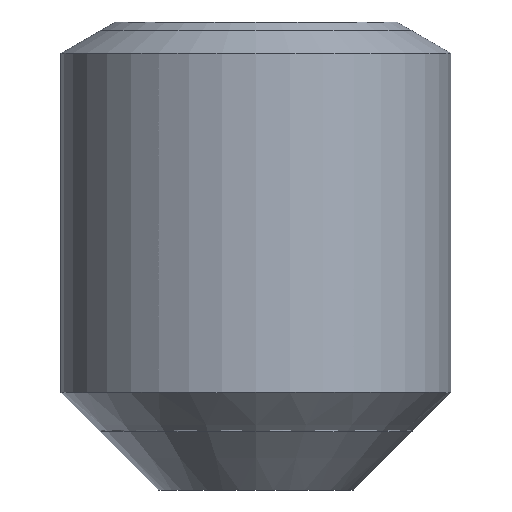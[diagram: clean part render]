
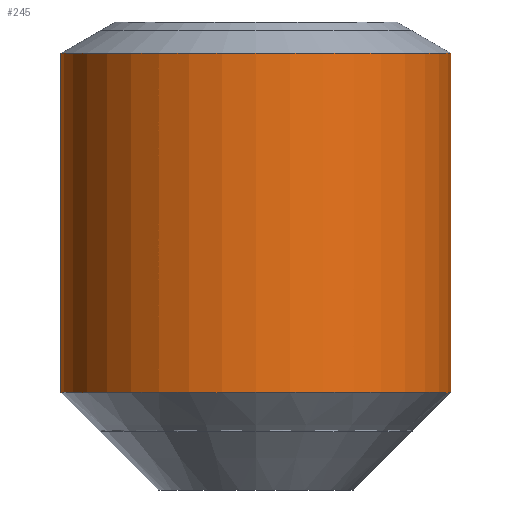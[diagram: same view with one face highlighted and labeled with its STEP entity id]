
A CAD part, front view. The second image highlights one B-rep face of the part: STEP entity #245.
In plain terms, the highlighted cylindrical face has radius 2.5 mm (diameter 5 mm), a partial arc.
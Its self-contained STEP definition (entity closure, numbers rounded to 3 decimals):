
#12=CARTESIAN_POINT('',(0.,0.,1.25));
#13=DIRECTION('',(0.,0.,1.));
#14=DIRECTION('',(-1.,0.,0.));
#15=AXIS2_PLACEMENT_3D('',#12,#13,#14);
#30=DIRECTION('',(0.,0.,1.));
#31=VECTOR('',#30,4.35);
#32=CARTESIAN_POINT('',(2.5,0.,1.25));
#33=LINE('',#32,#31);
#34=DIRECTION('',(0.,0.,1.));
#35=VECTOR('',#34,4.35);
#36=CARTESIAN_POINT('',(-2.5,0.,1.25));
#37=LINE('',#36,#35);
#38=CARTESIAN_POINT('',(0.,0.,5.6));
#39=DIRECTION('',(0.,0.,1.));
#40=DIRECTION('',(-1.,0.,0.));
#41=AXIS2_PLACEMENT_3D('',#38,#39,#40);
#166=CARTESIAN_POINT('',(2.5,0.,5.6));
#167=CARTESIAN_POINT('',(-2.5,0.,5.6));
#168=VERTEX_POINT('',#166);
#169=VERTEX_POINT('',#167);
#174=CARTESIAN_POINT('',(2.5,0.,1.25));
#175=CARTESIAN_POINT('',(-2.5,0.,1.25));
#176=VERTEX_POINT('',#174);
#177=VERTEX_POINT('',#175);
#233=CARTESIAN_POINT('',(0.,0.,0.));
#234=DIRECTION('',(0.,0.,1.));
#235=DIRECTION('',(1.,0.,0.));
#236=AXIS2_PLACEMENT_3D('',#233,#234,#235);
#237=CYLINDRICAL_SURFACE('',#236,2.5);
#238=ORIENTED_EDGE('',*,*,#198,.F.);
#239=ORIENTED_EDGE('',*,*,#228,.T.);
#241=ORIENTED_EDGE('',*,*,#240,.T.);
#242=ORIENTED_EDGE('',*,*,#224,.F.);
#243=EDGE_LOOP('',(#238,#239,#241,#242));
#244=FACE_OUTER_BOUND('',#243,.F.);
#245=ADVANCED_FACE('',(#244),#237,.T.);
#16=CIRCLE('',#15,2.5);
#42=CIRCLE('',#41,2.5);
#198=EDGE_CURVE('',#177,#176,#16,.T.);
#224=EDGE_CURVE('',#176,#168,#33,.T.);
#228=EDGE_CURVE('',#177,#169,#37,.T.);
#240=EDGE_CURVE('',#169,#168,#42,.T.);
